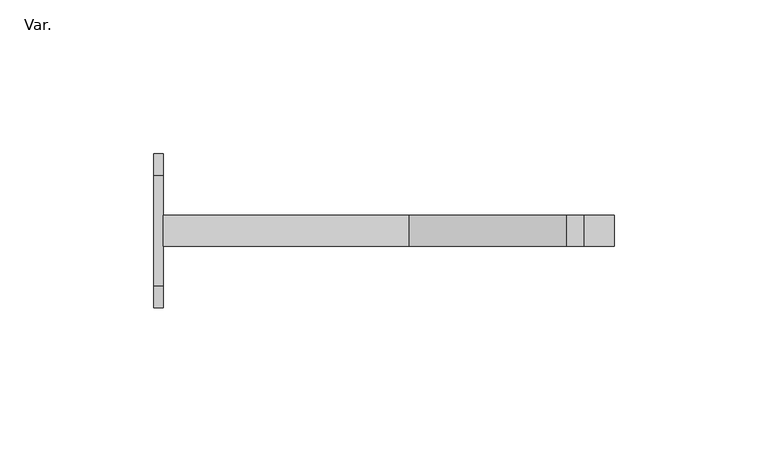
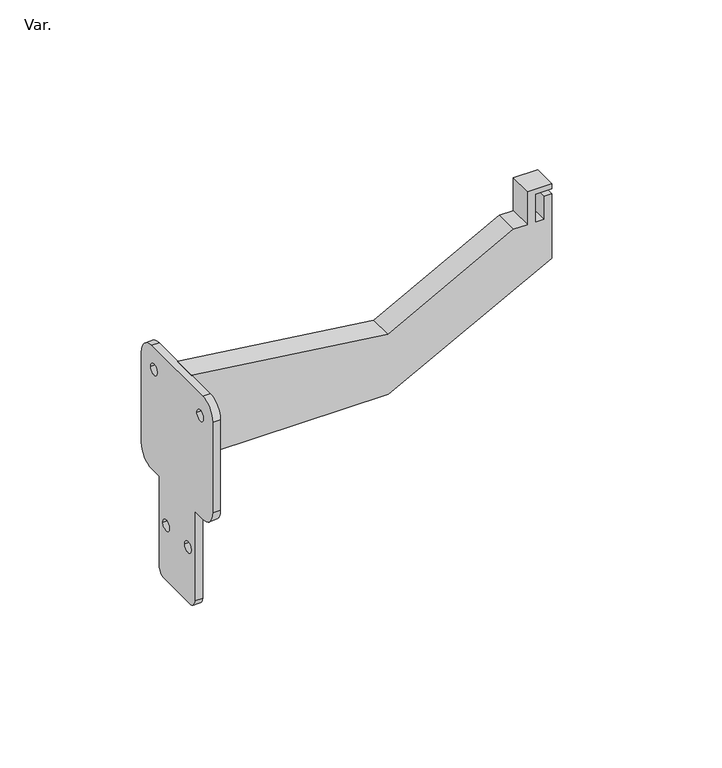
"""IFC4 building model written with IfcOpenShell, lengths in millimetres: pipe fitting geometry, AmancoWavin_Unionesdetubería_CanalesyBajantesZ_NoUsarSoporteInternoCanoa : Var.."""

import ifcopenshell
import ifcopenshell.guid

model = None  # the IFC model being written
_history = None  # IfcOwnerHistory: only IFC2X3 demands one
_inside = {}  # id of a spatial element -> (the spatial element, [elements in it])
_under = {}  # id of a project, library or spatial element -> (it, [spatial elements below it])
_declared = {}  # id of a project -> (the project, [libraries it declares])
_typed = {}  # id of a type object -> (the type object, [elements of that type])
_made_of = {}  # id of a material, layer set ... -> (it, [elements and type objects made of it])


def new_model(schema):
    """Start an empty IFC model of exactly this schema.

    Asked for "IFC4X3", IfcOpenShell would pick the latest addendum, in which some entities
    have other attributes; the version numbers below select the first issue.
    IFC2X3 requires an IfcOwnerHistory on every rooted entity: one is made here for all.
    """
    global model, _history
    if schema == "IFC4X3":
        model = ifcopenshell.file(schema_version=(4, 3, 0, 0))
    else:
        model = ifcopenshell.file(schema=schema)
    _inside.clear()
    _under.clear()
    _declared.clear()
    _typed.clear()
    _made_of.clear()
    _history = None
    if model.schema == "IFC2X3":
        org = make("IfcOrganization", Name="unknown")
        user = make(
            "IfcPersonAndOrganization",
            ThePerson=make("IfcPerson", FamilyName="unknown"),
            TheOrganization=org,
        )
        app = make(
            "IfcApplication",
            ApplicationDeveloper=org,
            Version="unknown",
            ApplicationFullName="unknown",
            ApplicationIdentifier="unknown",
        )
        _history = make(
            "IfcOwnerHistory",
            OwningUser=user,
            OwningApplication=app,
            ChangeAction="ADDED",
            CreationDate=0,
        )
    return model


def make(cls, **values):
    """One entity of the class cls with the attributes given. An attribute that is None is left unset."""
    return model.create_entity(
        cls, **{name: value for name, value in values.items() if value is not None}
    )


def rooted(cls, **values):
    """An entity with a GlobalId (a new one), such as an element, a storey or a relation."""
    return make(cls, GlobalId=ifcopenshell.guid.new(), OwnerHistory=_history, **values)


def si_unit(unit_type, name, prefix=None):
    """IfcSIUnit, for example si_unit("LENGTHUNIT", "METRE", prefix="MILLI")."""
    return make("IfcSIUnit", UnitType=unit_type, Prefix=prefix, Name=name)


def assignment(units):
    """IfcUnitAssignment: the units of a project."""
    return None if units is None else make("IfcUnitAssignment", Units=units)


def point(xyz):
    """IfcCartesianPoint."""
    return None if xyz is None else make("IfcCartesianPoint", Coordinates=xyz)


def direction(xyz):
    """IfcDirection."""
    return None if xyz is None else make("IfcDirection", DirectionRatios=xyz)


def frame(location, z_axis=None, x_axis=None):
    """IfcAxis2Placement3D, a coordinate frame: its origin and axes. An axis left out is left unset."""
    return make(
        "IfcAxis2Placement3D",
        Location=point(location),
        Axis=direction(z_axis),
        RefDirection=direction(x_axis),
    )


def frame_2d(location, x_axis=None):
    """IfcAxis2Placement2D, a coordinate frame in the plane: its origin and x axis."""
    return make(
        "IfcAxis2Placement2D", Location=point(location), RefDirection=direction(x_axis)
    )


def origin():
    """The frame at (0, 0, 0) with its axes left unset."""
    return frame((0.0, 0.0, 0.0))


def place(relative_to, where):
    """IfcLocalPlacement: puts the frame where relative to a parent placement (None: the world)."""
    return make(
        "IfcLocalPlacement", PlacementRelTo=relative_to, RelativePlacement=where
    )


def context(
    kind, dimensions, precision=None, world=None, true_north=None, identifier=None
):
    """IfcGeometricRepresentationContext, for example the 3D "Model" context."""
    return make(
        "IfcGeometricRepresentationContext",
        ContextIdentifier=identifier,
        ContextType=kind,
        CoordinateSpaceDimension=dimensions,
        Precision=precision,
        WorldCoordinateSystem=world,
        TrueNorth=true_north,
    )


def project(units=None, contexts=None):
    """IfcProject with its units and contexts."""
    return rooted(
        "IfcProject",
        Name="project",
        RepresentationContexts=contexts,
        UnitsInContext=assignment(units),
    )


def spatial(cls, under=None, at=None, **own):
    """A site, building, storey or space (cls), placed at a placement, below another one or the project."""
    s = rooted(cls, ObjectPlacement=at, **own)
    if under is not None:
        _under.setdefault(under.id(), (under, []))[1].append(s)
    return s


def polyline(points):
    """IfcPolyline through the points."""
    return make("IfcPolyline", Points=[point(p) for p in points])


def circle_curve(where, radius):
    """IfcCircle in the frame where."""
    return make("IfcCircle", Position=where, Radius=radius)


def trimmed(basis, trim1, trim2, sense, master):
    """IfcTrimmedCurve: the piece of a basis curve between two trims."""
    return make(
        "IfcTrimmedCurve",
        BasisCurve=basis,
        Trim1=trim1,
        Trim2=trim2,
        SenseAgreement=sense,
        MasterRepresentation=master,
    )


def segment(curve, same_sense, transition):
    """IfcCompositeCurveSegment."""
    return make(
        "IfcCompositeCurveSegment",
        Transition=transition,
        SameSense=same_sense,
        ParentCurve=curve,
    )


def composite_curve(segments, self_intersect=None):
    """IfcCompositeCurve: segments joined end to end."""
    return make("IfcCompositeCurve", Segments=segments, SelfIntersect=self_intersect)


def outline(outer, holes=None, kind="AREA"):
    """IfcArbitraryClosedProfileDef: a profile drawn as a closed curve; with holes, ...WithVoids."""
    if holes is None:
        return make("IfcArbitraryClosedProfileDef", ProfileType=kind, OuterCurve=outer)
    return make(
        "IfcArbitraryProfileDefWithVoids",
        ProfileType=kind,
        OuterCurve=outer,
        InnerCurves=holes,
    )


def extrude(swept, where, along, depth):
    """IfcExtrudedAreaSolid: the profile swept, set in the frame where, extruded along a direction by depth."""
    return make(
        "IfcExtrudedAreaSolid",
        SweptArea=swept,
        Position=where,
        ExtrudedDirection=direction(along),
        Depth=depth,
    )


def shape(context_of_items, identifier, shape_type, items):
    """IfcShapeRepresentation: the items that make up one representation, for example the "Body"."""
    return make(
        "IfcShapeRepresentation",
        ContextOfItems=context_of_items,
        RepresentationIdentifier=identifier,
        RepresentationType=shape_type,
        Items=items,
    )


def source(mapping_origin, context_of_items, identifier, shape_type, items):
    """IfcRepresentationMap: a shape defined once, which mapped items show again and again."""
    return make(
        "IfcRepresentationMap",
        MappingOrigin=mapping_origin,
        MappedRepresentation=shape(context_of_items, identifier, shape_type, items),
    )


def transform(
    local_origin,
    x_axis=None,
    y_axis=None,
    z_axis=None,
    scale=None,
    scale2=None,
    scale3=None,
    uniform=True,
):
    """IfcCartesianTransformationOperator3D, or its non-uniform kind. x_axis, y_axis, z_axis: its Axis1, 2, 3."""
    if uniform:
        return make(
            "IfcCartesianTransformationOperator3D",
            Axis1=direction(x_axis),
            Axis2=direction(y_axis),
            LocalOrigin=point(local_origin),
            Scale=scale,
            Axis3=direction(z_axis),
        )
    return make(
        "IfcCartesianTransformationOperator3DnonUniform",
        Axis1=direction(x_axis),
        Axis2=direction(y_axis),
        LocalOrigin=point(local_origin),
        Scale=scale,
        Axis3=direction(z_axis),
        Scale2=scale2,
        Scale3=scale3,
    )


def mapped(mapping_source, mapping_target):
    """IfcMappedItem: shows the shape of a source again, moved by a transform."""
    return make(
        "IfcMappedItem", MappingSource=mapping_source, MappingTarget=mapping_target
    )


def made_of(thing, what):
    """Note that an element or type object is made of a material, layer set ...; save() writes the relation."""
    if what is not None:
        _made_of.setdefault(what.id(), (what, []))[1].append(thing)
    return thing


def element(
    cls,
    number,
    at=None,
    inside=None,
    cuts=None,
    type_object=None,
    material=None,
    context=None,
    identifier="Body",
    shape_type=None,
    held_by="IfcProductDefinitionShape",
    body=None,
    shapes=None,
    **own,
):
    """One element of the class cls, such as IfcWall. Its Tag is "e" and its number.

    at: its placement. inside: the storey or other place that contains it. cuts: it is an
    opening in that element (IfcRelVoidsElement). A single representation is given by context,
    identifier, shape_type and body (its items); several are given by shapes. held_by: the class
    of the entity that holds the representations. save() writes the other relations.
    """
    e = rooted(cls, Tag="e%d" % number, ObjectPlacement=at, **own)
    if body is not None:
        shapes = [shape(context, identifier, shape_type, body)]
    if shapes is not None:
        e.Representation = make(held_by, Representations=shapes)
    if inside is not None:
        _inside.setdefault(inside.id(), (inside, []))[1].append(e)
    if cuts is not None:
        rooted(
            "IfcRelVoidsElement", RelatingBuildingElement=cuts, RelatedOpeningElement=e
        )
    if type_object is not None:
        _typed.setdefault(type_object.id(), (type_object, []))[1].append(e)
    return made_of(e, material)


def aggregate(whole, parts):
    """IfcRelAggregates: a whole, such as a stair, and the parts it consists of."""
    return rooted("IfcRelAggregates", RelatingObject=whole, RelatedObjects=parts)


def save(model, path):
    """Write the relations noted so far, then the file.

    IfcRelAggregates (storeys below a building ...), IfcRelContainedInSpatialStructure (elements
    in a storey), IfcRelDefinesByType, IfcRelAssociatesMaterial and IfcRelDeclares: one each for
    every whole, place, type object, material and project.
    """
    for whole, parts in _under.values():
        aggregate(whole, parts)
    for where, things in _inside.values():
        rooted(
            "IfcRelContainedInSpatialStructure",
            RelatedElements=things,
            RelatingStructure=where,
        )
    for kind, things in _typed.values():
        rooted("IfcRelDefinesByType", RelatedObjects=things, RelatingType=kind)
    for what, things in _made_of.values():
        rooted("IfcRelAssociatesMaterial", RelatedObjects=things, RelatingMaterial=what)
    for by, libraries in _declared.values():
        rooted("IfcRelDeclares", RelatingContext=by, RelatedDefinitions=libraries)
    model.write(path)


def var_56acee68(model_context):
    return source(origin(), model_context, "Body", "SweptSolid", [
        extrude(outline(polyline([(76.9946109, 8.4), (58.8946109, 8.4), (58.8946109, 80.05), (94.1858063, 146.85), (122.0087285, 146.85), (122.0087285, 143.7), (112.047149, 143.7), (112.047149, 140.1492188), (124.0469346, 140.1492188), (124.0469346, 146.85), (126.23, 146.85), (126.23, 136.9992187), (112.047149, 136.9992187), (112.047149, 131.1782563), (84.7411058, 80.05), (95.0946109, 0.0), (76.9946109, 0.0), (76.9946109, 8.4)])), frame((0.0, -5.0, 0.0), z_axis=(0.0, 1.0, 0.0), x_axis=(0.0, 0.0, 1.0)), (0.0, 0.0, 1.0), 10.0),
        extrude(outline(composite_curve([segment(polyline([(-18.125, 95.1), (18.125, 95.1)]), True, "CONTINUOUS"), segment(trimmed(circle_curve(frame_2d((18.125, 88.1)), 7.0), [point((18.125, 95.1))], [point((25.125, 88.1))], False, "CARTESIAN"), True, "CONTINUOUS"), segment(polyline([(25.125, 88.1), (25.125, 49.0)]), True, "CONTINUOUS"), segment(trimmed(circle_curve(frame_2d((18.125, 49.0)), 7.0), [point((25.125, 49.0))], [point((18.125, 42.0))], False, "CARTESIAN"), True, "CONTINUOUS"), segment(polyline([(18.125, 42.0), (12.55, 42.0), (12.55, 3.5)]), True, "CONTINUOUS"), segment(trimmed(circle_curve(frame_2d((9.05, 3.5)), 3.5), [point((12.55, 3.5))], [point((9.05, 0.0))], False, "CARTESIAN"), True, "CONTINUOUS"), segment(polyline([(9.05, 0.0), (-9.05, 0.0)]), True, "CONTINUOUS"), segment(trimmed(circle_curve(frame_2d((-9.05, 3.5)), 3.5), [point((-9.05, 0.0))], [point((-12.55, 3.5))], False, "CARTESIAN"), True, "CONTINUOUS"), segment(polyline([(-12.55, 3.5), (-12.55, 42.0), (-18.125, 42.0)]), True, "CONTINUOUS"), segment(trimmed(circle_curve(frame_2d((-18.125, 49.0)), 7.0), [point((-18.125, 42.0))], [point((-25.125, 49.0))], False, "CARTESIAN"), True, "CONTINUOUS"), segment(polyline([(-25.125, 49.0), (-25.125, 88.1)]), True, "CONTINUOUS"), segment(trimmed(circle_curve(frame_2d((-18.125, 88.1)), 7.0), [point((-25.125, 88.1))], [point((-18.125, 95.1))], False, "CARTESIAN"), True, "CONTINUOUS")], self_intersect=False), holes=[composite_curve([segment(trimmed(circle_curve(frame_2d((16.3635424, 85.7258609)), 2.325), [point((14.0385424, 85.7258609))], [point((18.6885424, 85.7258609))], True, "CARTESIAN"), True, "CONTINUOUS"), segment(trimmed(circle_curve(frame_2d((16.3635424, 85.7258609)), 2.325), [point((18.6885424, 85.7258609))], [point((14.0385424, 85.7258609))], True, "CARTESIAN"), True, "CONTINUOUS")], self_intersect=False), composite_curve([segment(trimmed(circle_curve(frame_2d((-16.3635424, 85.7258609)), 2.325), [point((-18.6885424, 85.7258609))], [point((-14.0385424, 85.7258609))], True, "CARTESIAN"), True, "CONTINUOUS"), segment(trimmed(circle_curve(frame_2d((-16.3635424, 85.7258609)), 2.325), [point((-14.0385424, 85.7258609))], [point((-18.6885424, 85.7258609))], True, "CARTESIAN"), True, "CONTINUOUS")], self_intersect=False), composite_curve([segment(trimmed(circle_curve(frame_2d((7.6958438, 23.7343762)), 2.325), [point((5.3708438, 23.7343762))], [point((10.0208438, 23.7343762))], True, "CARTESIAN"), True, "CONTINUOUS"), segment(trimmed(circle_curve(frame_2d((7.6958438, 23.7343762)), 2.325), [point((10.0208438, 23.7343762))], [point((5.3708438, 23.7343762))], True, "CARTESIAN"), True, "CONTINUOUS")], self_intersect=False), composite_curve([segment(trimmed(circle_curve(frame_2d((-7.6958438, 23.7343762)), 2.325), [point((-10.0208438, 23.7343762))], [point((-5.3708438, 23.7343762))], True, "CARTESIAN"), True, "CONTINUOUS"), segment(trimmed(circle_curve(frame_2d((-7.6958438, 23.7343762)), 2.325), [point((-5.3708438, 23.7343762))], [point((-10.0208438, 23.7343762))], True, "CARTESIAN"), True, "CONTINUOUS")], self_intersect=False)]), frame((-3.15, 0.0, 0.0), z_axis=(1.0, 0.0, 0.0), x_axis=(0.0, 1.0, 0.0)), (0.0, 0.0, 1.0), 3.15),
    ])


if __name__ == "__main__":
    model = new_model("IFC4")
    model_context = context("Model", 3, world=origin())
    ifc_project = project(units=[si_unit("LENGTHUNIT", "METRE", prefix="MILLI")], contexts=[model_context])
    site = spatial("IfcSite", under=ifc_project)
    building = spatial("IfcBuilding", under=site)
    placement = place(None, origin())
    var_shape = var_56acee68(model_context)
    element("IfcPipeFitting", 1, ObjectType="AmancoWavin_Unionesdetubería_CanalesyBajantesZ_NoUsarSoporteInternoCanoa : Var.", at=placement, inside=building, context=model_context, shape_type="MappedRepresentation", body=[
        mapped(var_shape, transform((0.0, 0.0, 0.0), x_axis=(1.0, 0.0, 0.0), y_axis=(0.0, 1.0, 0.0), z_axis=(0.0, 0.0, 1.0))),
    ])
    save(model, "model.ifc")
